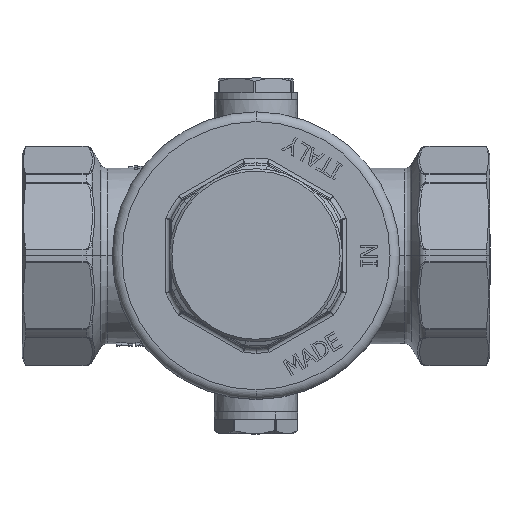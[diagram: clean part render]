
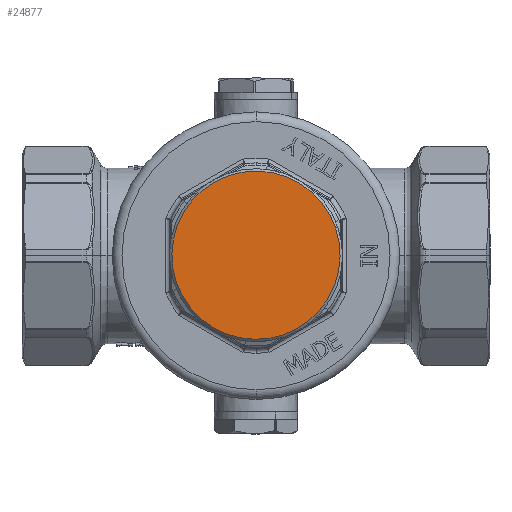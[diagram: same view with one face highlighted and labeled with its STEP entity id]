
A CAD part, top view. The second image highlights one B-rep face of the part: STEP entity #24877.
In plain terms, the highlighted planar face has unit normal (0, 0, 1).
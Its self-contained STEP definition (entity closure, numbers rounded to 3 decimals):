
#21 = AXIS2_PLACEMENT_3D ( 'NONE', #48379, #73562, #81066 ) ;
#367 = EDGE_CURVE ( 'NONE', #48543, #57295, #26645, .T. ) ;
#1797 = CARTESIAN_POINT ( 'NONE',  ( 0., 0., 3. ) ) ;
#9620 = CIRCLE ( 'NONE', #52314, 17.25 ) ;
#14359 = DIRECTION ( 'NONE',  ( -1., 0., 0. ) ) ;
#24877 = ADVANCED_FACE ( 'NONE', ( #57853 ), #37333, .F. ) ;
#26645 = CIRCLE ( 'NONE', #21, 17.25 ) ;
#37333 = PLANE ( 'NONE',  #74325 ) ;
#48379 = CARTESIAN_POINT ( 'NONE',  ( 0., 0., 3. ) ) ;
#48451 = EDGE_CURVE ( 'NONE', #57295, #48543, #9620, .T. ) ;
#48543 = VERTEX_POINT ( 'NONE', #52672 ) ;
#52314 = AXIS2_PLACEMENT_3D ( 'NONE', #1797, #72494, #14359 ) ;
#52672 = CARTESIAN_POINT ( 'NONE',  ( -17.25, 0., 3. ) ) ;
#52847 = CARTESIAN_POINT ( 'NONE',  ( 17.25, 0., 3. ) ) ;
#55605 = ORIENTED_EDGE ( 'NONE', *, *, #48451, .F. ) ;
#57065 = ORIENTED_EDGE ( 'NONE', *, *, #367, .F. ) ;
#57295 = VERTEX_POINT ( 'NONE', #52847 ) ;
#57853 = FACE_OUTER_BOUND ( 'NONE', #68299, .T. ) ;
#64168 = DIRECTION ( 'NONE',  ( 0., 0., -1. ) ) ;
#68299 = EDGE_LOOP ( 'NONE', ( #57065, #55605 ) ) ;
#69589 = CARTESIAN_POINT ( 'NONE',  ( 0., 0., 3. ) ) ;
#70850 = DIRECTION ( 'NONE',  ( 0., -1., 0. ) ) ;
#72494 = DIRECTION ( 'NONE',  ( 0., 0., -1. ) ) ;
#73562 = DIRECTION ( 'NONE',  ( 0., 0., -1. ) ) ;
#74325 = AXIS2_PLACEMENT_3D ( 'NONE', #69589, #64168, #70850 ) ;
#81066 = DIRECTION ( 'NONE',  ( -1., 0., 0. ) ) ;
